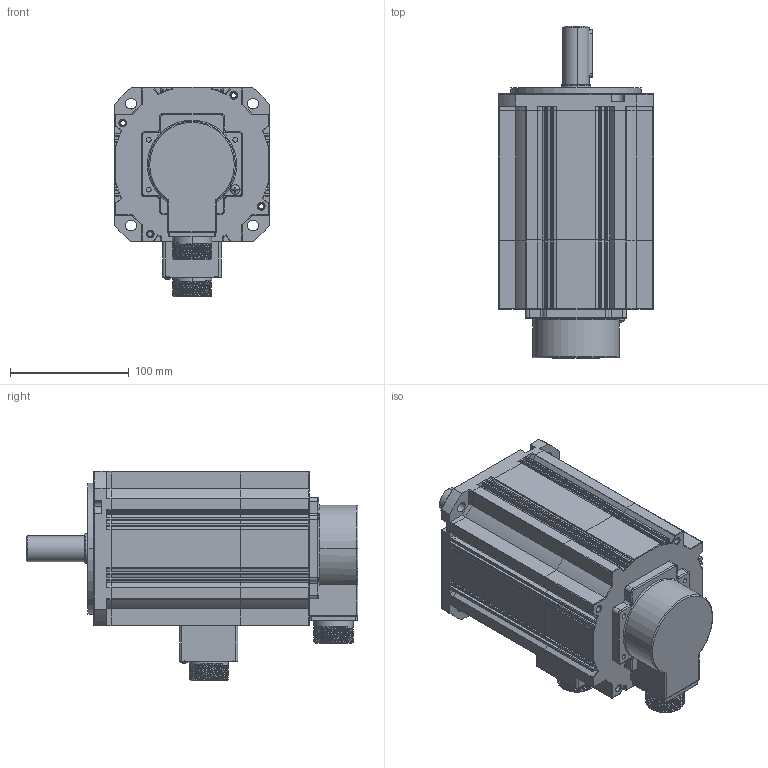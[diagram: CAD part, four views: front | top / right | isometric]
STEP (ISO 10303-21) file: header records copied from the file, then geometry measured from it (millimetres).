
FILE_DESCRIPTION (( 'STEP AP203' ), '1' );
FILE_NAME ('BMR-G24C13020-´ø±§Õ¢.STEP', '2024-03-12T02:15:12', ( '' ), ( '' ), 'SwSTEP 2.0', 'SolidWorks 2018', '' );
FILE_SCHEMA (( 'CONFIG_CONTROL_DESIGN' ));
Length unit declared in the file: millimetre
Products named in the file (17): BMR-G24C13020-湍惕掅; hexagon socket head cap screws gb_GB_FASTENER_SCREWS_HSHCS M5X20-N; ヶ傷裔; 蛌赽軞傖; cross recessed pan head screws gb_GB_CROSS_SCREWS_TYPE1 M3X12-12  H type-N; 脣釱1; deep groove ball bearings gb_Rolling bearings 6204 GB 276-94; 盓傅啣; cross recessed pan head screws gb_GB_CROSS_SCREWS_TYPE1 M4X12-12  H type-N; deep groove ball bearings gb_Rolling bearings 6205 GB 276-94; 瑤脣窒煦; 粣; 晤鎢ん; 惕掅綴傷裔; jike; 晤鎢欶裔; 瑤脣裔
Assembly tree (20 placements, depth 3):
  BMR-G24C13020-湍惕掅
    jike
    瑤脣窒煦
      瑤脣裔
      脣釱1
      盓傅啣
    ヶ傷裔
    晤鎢欶裔
    脣釱1
    hexagon socket head cap screws gb_GB_FASTENER_SCREWS_HSHCS M5X20-N
    cross recessed pan head screws gb_GB_CROSS_SCREWS_TYPE1 M4X12-12  H type-N
    cross recessed pan head screws gb_GB_CROSS_SCREWS_TYPE1 M3X12-12  H type-N  x2
    晤鎢ん
    蛌赽軞傖
      粣
      deep groove ball bearings gb_Rolling bearings 6205 GB 276-94  x2
      deep groove ball bearings gb_Rolling bearings 6204 GB 276-94  x2
    惕掅綴傷裔
Bounding box: 130 x 279 x 176 mm (x, y, z)
Volume: 1201011.7 mm3; surface area: 432538.4 mm2
Topology: 18 solids, 18 shells, 2187 faces, 6502 edges, 4109 vertices
Faces by surface type: cylinder 899, plane 561, torus 369, sphere 224, bspline 114, cone 20
Entity records: 69126 total; most frequent: CARTESIAN_POINT 20928, ORIENTED_EDGE 9934, DIRECTION 9751, EDGE_CURVE 4967, AXIS2_PLACEMENT_3D 3887, VERTEX_POINT 3123, CIRCLE 2093, EDGE_LOOP 2038
